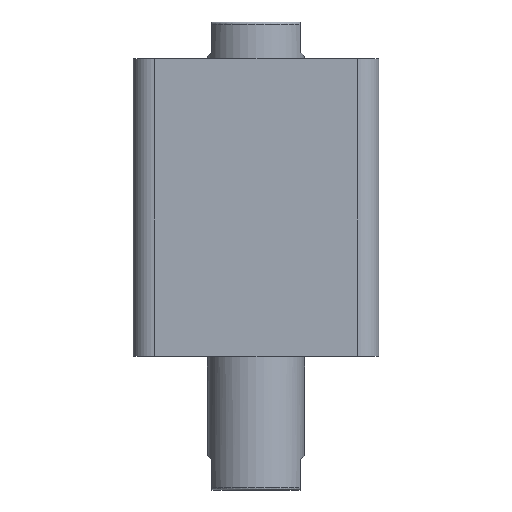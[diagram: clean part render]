
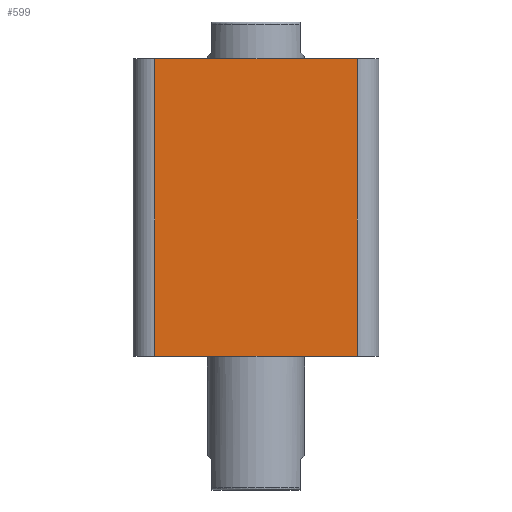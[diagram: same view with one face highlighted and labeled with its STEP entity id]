
A CAD part, front view. The second image highlights one B-rep face of the part: STEP entity #599.
In plain terms, the highlighted planar face has unit normal (0, -1, 0).
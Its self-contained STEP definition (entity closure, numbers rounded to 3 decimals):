
#153 = CARTESIAN_POINT ( 'NONE',  ( -47., -57., 0. ) ) ;
#585 = CARTESIAN_POINT ( 'NONE',  ( -47., -57., 138. ) ) ;
#586 = DIRECTION ( 'NONE',  ( 0., 0., -1. ) ) ;
#599 = ADVANCED_FACE ( 'NONE', ( #1686 ), #3185, .F. ) ;
#702 = VERTEX_POINT ( 'NONE', #153 ) ;
#864 = EDGE_CURVE ( 'NONE', #1456, #702, #2507, .T. ) ;
#865 = EDGE_CURVE ( 'NONE', #1456, #1455, #2499, .T. ) ;
#866 = EDGE_CURVE ( 'NONE', #1458, #1455, #2510, .T. ) ;
#867 = EDGE_CURVE ( 'NONE', #702, #1458, #2512, .T. ) ;
#973 = AXIS2_PLACEMENT_3D ( 'NONE', #3144, #3183, #3182 ) ;
#1335 = ORIENTED_EDGE ( 'NONE', *, *, #866, .T. ) ;
#1336 = ORIENTED_EDGE ( 'NONE', *, *, #865, .F. ) ;
#1455 = VERTEX_POINT ( 'NONE', #2214 ) ;
#1456 = VERTEX_POINT ( 'NONE', #2215 ) ;
#1458 = VERTEX_POINT ( 'NONE', #2217 ) ;
#1530 = EDGE_LOOP ( 'NONE', ( #1658, #1335, #1336, #3085 ) ) ;
#1658 = ORIENTED_EDGE ( 'NONE', *, *, #867, .T. ) ;
#1686 = FACE_OUTER_BOUND ( 'NONE', #1530, .T. ) ;
#1903 = CARTESIAN_POINT ( 'NONE',  ( -57., -57., 138. ) ) ;
#1907 = DIRECTION ( 'NONE',  ( 1., 0., 0. ) ) ;
#1908 = CARTESIAN_POINT ( 'NONE',  ( 47., -57., 138. ) ) ;
#1909 = DIRECTION ( 'NONE',  ( 0., 0., 1. ) ) ;
#1910 = CARTESIAN_POINT ( 'NONE',  ( -57., -57., 0. ) ) ;
#1911 = DIRECTION ( 'NONE',  ( 1., 0., 0. ) ) ;
#2214 = CARTESIAN_POINT ( 'NONE',  ( 47., -57., 138. ) ) ;
#2215 = CARTESIAN_POINT ( 'NONE',  ( -47., -57., 138. ) ) ;
#2217 = CARTESIAN_POINT ( 'NONE',  ( 47., -57., 0. ) ) ;
#2499 = LINE ( 'NONE', #1903, #2511 ) ;
#2507 = LINE ( 'NONE', #585, #2509 ) ;
#2509 = VECTOR ( 'NONE', #586, 1000. ) ;
#2510 = LINE ( 'NONE', #1908, #2513 ) ;
#2511 = VECTOR ( 'NONE', #1907, 1000. ) ;
#2512 = LINE ( 'NONE', #1910, #2516 ) ;
#2513 = VECTOR ( 'NONE', #1909, 1000. ) ;
#2516 = VECTOR ( 'NONE', #1911, 1000. ) ;
#3085 = ORIENTED_EDGE ( 'NONE', *, *, #864, .T. ) ;
#3144 = CARTESIAN_POINT ( 'NONE',  ( -57., -57., 138. ) ) ;
#3182 = DIRECTION ( 'NONE',  ( 0., 0., 1. ) ) ;
#3183 = DIRECTION ( 'NONE',  ( 0., 1., 0. ) ) ;
#3185 = PLANE ( 'NONE',  #973 ) ;
